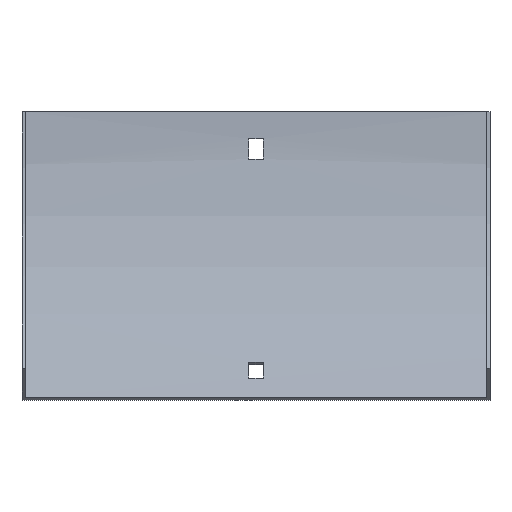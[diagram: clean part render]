
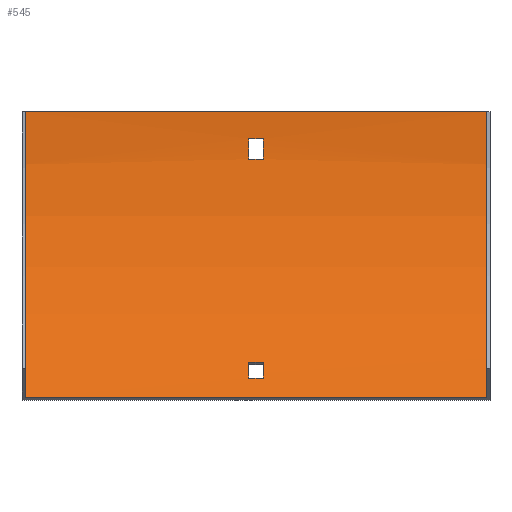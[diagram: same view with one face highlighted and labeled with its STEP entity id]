
A CAD part, front view. The second image highlights one B-rep face of the part: STEP entity #545.
In plain terms, the highlighted cylindrical face has radius 179 mm (diameter 358 mm), a partial arc.
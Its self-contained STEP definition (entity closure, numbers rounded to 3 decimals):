
#3 = ORIENTED_EDGE ( 'NONE', *, *, #306, .F. ) ;
#12 = CARTESIAN_POINT ( 'NONE',  ( 102., -1.5, 0. ) ) ;
#27 = EDGE_CURVE ( 'NONE', #475, #468, #521, .T. ) ;
#28 = ORIENTED_EDGE ( 'NONE', *, *, #358, .T. ) ;
#30 = AXIS2_PLACEMENT_3D ( 'NONE', #373, #418, #100 ) ;
#36 = CARTESIAN_POINT ( 'NONE',  ( -102., -1.5, 0. ) ) ;
#58 = CIRCLE ( 'NONE', #398, 179. ) ;
#59 = CARTESIAN_POINT ( 'NONE',  ( -102., -180.5, 0. ) ) ;
#61 = DIRECTION ( 'NONE',  ( -1., 0., 0. ) ) ;
#66 = VECTOR ( 'NONE', #160, 1000. ) ;
#68 = ORIENTED_EDGE ( 'NONE', *, *, #144, .T. ) ;
#78 = FACE_OUTER_BOUND ( 'NONE', #430, .T. ) ;
#81 = DIRECTION ( 'NONE',  ( 0., 0., 1. ) ) ;
#84 = CARTESIAN_POINT ( 'NONE',  ( 103.5, -2.736, -21. ) ) ;
#98 = EDGE_LOOP ( 'NONE', ( #213, #516, #68, #28 ) ) ;
#100 = DIRECTION ( 'NONE',  ( 0., 0., 1. ) ) ;
#101 = ORIENTED_EDGE ( 'NONE', *, *, #163, .F. ) ;
#104 = FACE_BOUND ( 'NONE', #98, .T. ) ;
#115 = EDGE_CURVE ( 'NONE', #157, #475, #278, .T. ) ;
#118 = CIRCLE ( 'NONE', #30, 179. ) ;
#123 = CARTESIAN_POINT ( 'NONE',  ( 3.25, -180.5, 0. ) ) ;
#127 = AXIS2_PLACEMENT_3D ( 'NONE', #123, #405, #409 ) ;
#140 = AXIS2_PLACEMENT_3D ( 'NONE', #220, #156, #210 ) ;
#144 = EDGE_CURVE ( 'NONE', #468, #487, #533, .T. ) ;
#146 = VERTEX_POINT ( 'NONE', #575 ) ;
#148 = ORIENTED_EDGE ( 'NONE', *, *, #152, .F. ) ;
#151 = ORIENTED_EDGE ( 'NONE', *, *, #589, .T. ) ;
#152 = EDGE_CURVE ( 'NONE', #567, #301, #58, .T. ) ;
#155 = CARTESIAN_POINT ( 'NONE',  ( 3.25, -45.727, -117.802 ) ) ;
#156 = DIRECTION ( 'NONE',  ( -1., 0., 0. ) ) ;
#157 = VERTEX_POINT ( 'NONE', #155 ) ;
#159 = VECTOR ( 'NONE', #258, 1000. ) ;
#160 = DIRECTION ( 'NONE',  ( -1., 0., 0. ) ) ;
#163 = EDGE_CURVE ( 'NONE', #419, #349, #431, .T. ) ;
#182 = VECTOR ( 'NONE', #309, 1000. ) ;
#186 = LINE ( 'NONE', #458, #182 ) ;
#196 = CARTESIAN_POINT ( 'NONE',  ( 102., -53.928, -126.572 ) ) ;
#202 = DIRECTION ( 'NONE',  ( 0., 0., 1. ) ) ;
#210 = DIRECTION ( 'NONE',  ( 0., 0., 1. ) ) ;
#213 = ORIENTED_EDGE ( 'NONE', *, *, #115, .T. ) ;
#220 = CARTESIAN_POINT ( 'NONE',  ( 103.5, -180.5, 0. ) ) ;
#229 = LINE ( 'NONE', #84, #542 ) ;
#241 = CIRCLE ( 'NONE', #331, 179. ) ;
#247 = EDGE_LOOP ( 'NONE', ( #356, #3, #148, #393 ) ) ;
#248 = CARTESIAN_POINT ( 'NONE',  ( 3.25, -180.5, 0. ) ) ;
#258 = DIRECTION ( 'NONE',  ( 1., 0., 0. ) ) ;
#264 = CARTESIAN_POINT ( 'NONE',  ( -3.25, -180.5, 0. ) ) ;
#273 = CIRCLE ( 'NONE', #448, 179. ) ;
#278 = LINE ( 'NONE', #307, #592 ) ;
#288 = VERTEX_POINT ( 'NONE', #320 ) ;
#299 = VERTEX_POINT ( 'NONE', #36 ) ;
#301 = VERTEX_POINT ( 'NONE', #312 ) ;
#303 = DIRECTION ( 'NONE',  ( -1., 0., 0. ) ) ;
#306 = EDGE_CURVE ( 'NONE', #301, #146, #186, .T. ) ;
#307 = CARTESIAN_POINT ( 'NONE',  ( 103.5, -45.727, -117.802 ) ) ;
#309 = DIRECTION ( 'NONE',  ( -1., 0., 0. ) ) ;
#312 = CARTESIAN_POINT ( 'NONE',  ( 3.25, -1.903, -12. ) ) ;
#313 = VECTOR ( 'NONE', #303, 1000. ) ;
#320 = CARTESIAN_POINT ( 'NONE',  ( -3.25, -2.736, -21. ) ) ;
#322 = AXIS2_PLACEMENT_3D ( 'NONE', #264, #447, #408 ) ;
#330 = EDGE_CURVE ( 'NONE', #288, #567, #229, .T. ) ;
#331 = AXIS2_PLACEMENT_3D ( 'NONE', #59, #359, #202 ) ;
#338 = CARTESIAN_POINT ( 'NONE',  ( 102., -53.928, -126.572 ) ) ;
#344 = ORIENTED_EDGE ( 'NONE', *, *, #428, .T. ) ;
#349 = VERTEX_POINT ( 'NONE', #510 ) ;
#356 = ORIENTED_EDGE ( 'NONE', *, *, #402, .F. ) ;
#358 = EDGE_CURVE ( 'NONE', #487, #157, #561, .T. ) ;
#359 = DIRECTION ( 'NONE',  ( 1., 0., 0. ) ) ;
#373 = CARTESIAN_POINT ( 'NONE',  ( 102., -180.5, 0. ) ) ;
#377 = ORIENTED_EDGE ( 'NONE', *, *, #493, .F. ) ;
#384 = DIRECTION ( 'NONE',  ( 1., 0., 0. ) ) ;
#393 = ORIENTED_EDGE ( 'NONE', *, *, #330, .F. ) ;
#398 = AXIS2_PLACEMENT_3D ( 'NONE', #248, #384, #445 ) ;
#402 = EDGE_CURVE ( 'NONE', #146, #288, #273, .T. ) ;
#403 = CARTESIAN_POINT ( 'NONE',  ( -3.25, -180.5, 0. ) ) ;
#405 = DIRECTION ( 'NONE',  ( -1., 0., 0. ) ) ;
#408 = DIRECTION ( 'NONE',  ( 0., 0., -1. ) ) ;
#409 = DIRECTION ( 'NONE',  ( 0., 0., 1. ) ) ;
#418 = DIRECTION ( 'NONE',  ( 1., 0., 0. ) ) ;
#419 = VERTEX_POINT ( 'NONE', #196 ) ;
#421 = VERTEX_POINT ( 'NONE', #422 ) ;
#422 = CARTESIAN_POINT ( 'NONE',  ( 102., -1.5, 0. ) ) ;
#426 = LINE ( 'NONE', #12, #66 ) ;
#428 = EDGE_CURVE ( 'NONE', #419, #421, #118, .T. ) ;
#430 = EDGE_LOOP ( 'NONE', ( #377, #101, #344, #151 ) ) ;
#431 = LINE ( 'NONE', #338, #313 ) ;
#445 = DIRECTION ( 'NONE',  ( 0., 0., -1. ) ) ;
#447 = DIRECTION ( 'NONE',  ( 1., 0., 0. ) ) ;
#448 = AXIS2_PLACEMENT_3D ( 'NONE', #403, #504, #81 ) ;
#458 = CARTESIAN_POINT ( 'NONE',  ( 103.5, -1.903, -12. ) ) ;
#467 = CARTESIAN_POINT ( 'NONE',  ( 3.25, -39.953, -110.849 ) ) ;
#468 = VERTEX_POINT ( 'NONE', #515 ) ;
#475 = VERTEX_POINT ( 'NONE', #476 ) ;
#476 = CARTESIAN_POINT ( 'NONE',  ( -3.25, -45.727, -117.802 ) ) ;
#478 = CARTESIAN_POINT ( 'NONE',  ( 3.25, -2.736, -21. ) ) ;
#483 = CYLINDRICAL_SURFACE ( 'NONE', #140, 179. ) ;
#487 = VERTEX_POINT ( 'NONE', #467 ) ;
#493 = EDGE_CURVE ( 'NONE', #349, #299, #241, .T. ) ;
#496 = CARTESIAN_POINT ( 'NONE',  ( 103.5, -39.953, -110.849 ) ) ;
#500 = DIRECTION ( 'NONE',  ( 1., 0., 0. ) ) ;
#504 = DIRECTION ( 'NONE',  ( -1., 0., 0. ) ) ;
#510 = CARTESIAN_POINT ( 'NONE',  ( -102., -53.928, -126.572 ) ) ;
#515 = CARTESIAN_POINT ( 'NONE',  ( -3.25, -39.953, -110.849 ) ) ;
#516 = ORIENTED_EDGE ( 'NONE', *, *, #27, .T. ) ;
#521 = CIRCLE ( 'NONE', #322, 179. ) ;
#533 = LINE ( 'NONE', #496, #159 ) ;
#542 = VECTOR ( 'NONE', #500, 1000. ) ;
#545 = ADVANCED_FACE ( 'NONE', ( #576, #78, #104 ), #483, .F. ) ;
#561 = CIRCLE ( 'NONE', #127, 179. ) ;
#567 = VERTEX_POINT ( 'NONE', #478 ) ;
#575 = CARTESIAN_POINT ( 'NONE',  ( -3.25, -1.903, -12. ) ) ;
#576 = FACE_BOUND ( 'NONE', #247, .T. ) ;
#589 = EDGE_CURVE ( 'NONE', #421, #299, #426, .T. ) ;
#592 = VECTOR ( 'NONE', #61, 1000. ) ;
